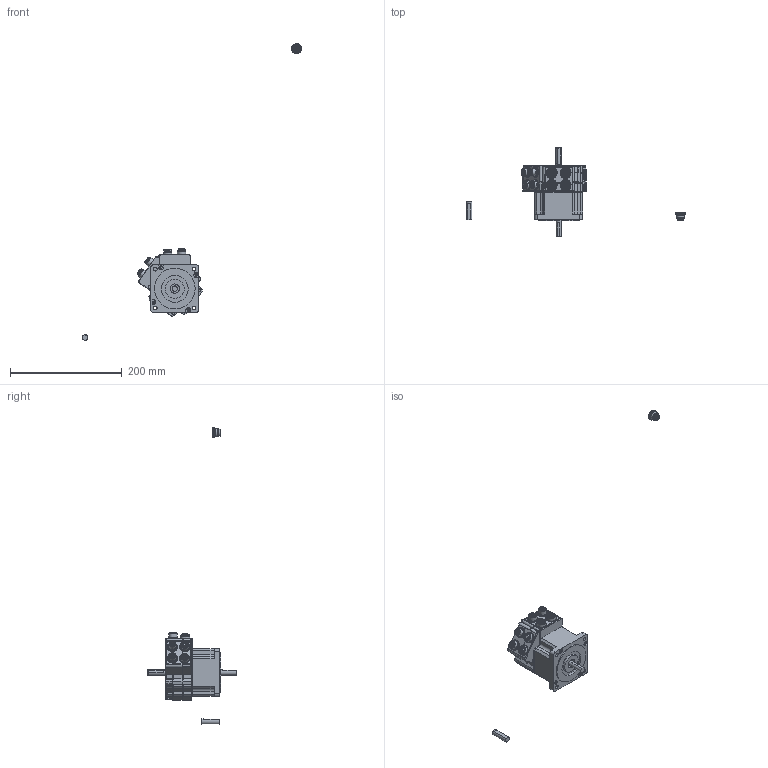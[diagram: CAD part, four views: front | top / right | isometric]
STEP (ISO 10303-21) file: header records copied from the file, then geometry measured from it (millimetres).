
FILE_DESCRIPTION( ( 'Unknown' ), '1' );
FILE_NAME( 'K:/JVL/MISxx/MIS34x/CAD internet tegninger/STEP/STEP/MIS340C13xxxx85.stp', 'Unknown', ( 'Unknown' ), ( 'Unknown' ), 'PSStep 11.0', 'Unknown', ' ' );
FILE_SCHEMA( ( 'AUTOMOTIVE_DESIGN { 1 0 10303 214 1 1 1 1 }' ) );
Length unit declared in the file: millimetre
Products named in the file (10): MIS34 house; MIS34 house with rear shaft; Assem1; MM3831; MM3830; PWR 5 pin male; IO RS485 17 pin female; Ethernet 4 pin female; Rear shaft; MIS340 single shaft
Bounding box: 393.01 x 160.05 x 531.92 mm (x, y, z)
Volume: 1988504.2 mm3; surface area: 360094 mm2
Topology: 28 solids, 32 shells, 4093 faces, 9779 edges, 6002 vertices
Faces by surface type: plane 1811, cylinder 1607, sphere 436, cone 120, bspline 64, torus 31, extrusion 24
Full cylindrical faces by diameter (mm): 0.7 x68, 1 x64, 3 x20, 4.3 x16, 4.4 x8, 6.6 x8, 8.2 x4, 9.53 x2, 10 x3, 10.6 x4, 11.5 x11, 12 x4, 13.3 x7, 13.6 x4, 16 x4, 16.5 x2, 18 x15, 19 x16, 34 x2, 48 x2, 73 x2
Entity records: 38321 total; most frequent: CARTESIAN_POINT 5961, DIRECTION 5270, ORIENTED_EDGE 4714, EDGE_CURVE 2357, AXIS2_PLACEMENT_3D 1940, VERTEX_POINT 1487, VECTOR 1390, LINE 1384
